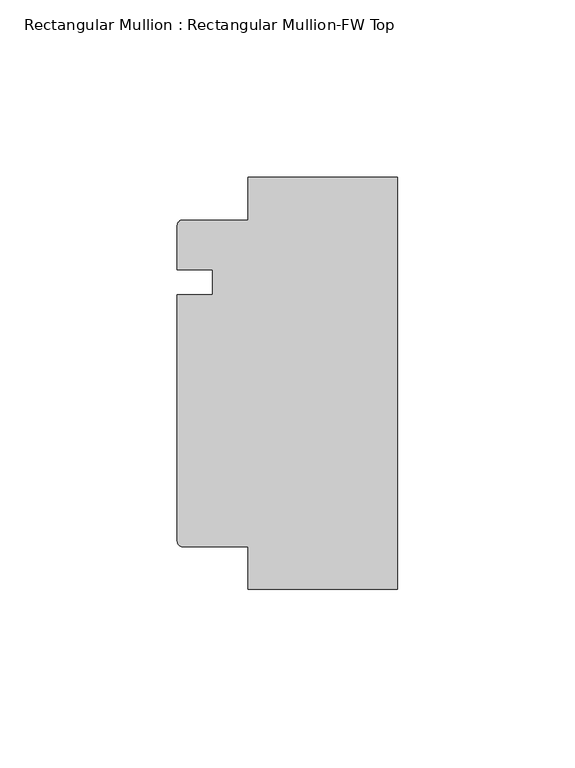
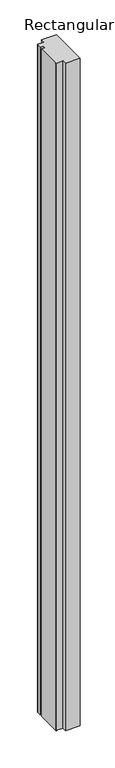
"""IFC4 building model written with IfcOpenShell, lengths in millimetres: member geometry, Rectangular Mullion : Rectangular Mullion-FW Top."""

from ifc_helpers import new_model, si_unit, point, frame, frame_2d, origin, place, context, project, spatial, polyline, circle_curve, trimmed, segment, composite_curve, outline, extrude, source, transform, mapped, element, save


def rectangular_mullion_rectangular_mullion_fw_top_1fdbd171(model_context):
    return source(origin(), model_context, "Body", "SweptSolid", [
        extrude(outline(composite_curve([segment(trimmed(circle_curve(frame_2d((-60.5201031, -90.5201031)), 1.4798969), [point((-60.5201031, -92.0))], [point((-62.0, -90.5201031))], False, "CARTESIAN"), True, "CONTINUOUS"), segment(polyline([(-62.0, -90.5201031), (-62.0, -21.0), (-52.0, -21.0), (-52.0, -14.0), (-62.0, -14.0), (-62.0, -1.4798969)]), True, "CONTINUOUS"), segment(trimmed(circle_curve(frame_2d((-60.5201031, -1.4798969)), 1.4798969), [point((-62.0, -1.4798969))], [point((-60.5201031, 0.0))], False, "CARTESIAN"), True, "CONTINUOUS"), segment(polyline([(-60.5201031, 0.0), (-42.0, 0.0), (-42.0, 12.0), (0.0, 12.0), (0.0, -104.0), (-42.0, -104.0), (-42.0, -92.0), (-60.5201031, -92.0)]), True, "CONTINUOUS")], self_intersect=False)), frame((0.0, 0.0, -2000.0), z_axis=(0.0, 0.0, 1.0), x_axis=(1.0, 0.0, 0.0)), (0.0, 0.0, 1.0), 2000.0),
    ])


if __name__ == "__main__":
    model = new_model("IFC4")
    model_context = context("Model", 3, world=origin())
    ifc_project = project(units=[si_unit("LENGTHUNIT", "METRE", prefix="MILLI")], contexts=[model_context])
    site = spatial("IfcSite", under=ifc_project)
    building = spatial("IfcBuilding", under=site)
    placement = place(None, origin())
    rectangular_mullion_rectangular_mullion_fw_top_shape = rectangular_mullion_rectangular_mullion_fw_top_1fdbd171(model_context)
    element("IfcMember", 1, ObjectType="Rectangular Mullion : Rectangular Mullion-FW Top", at=placement, inside=building, context=model_context, shape_type="MappedRepresentation", body=[
        mapped(rectangular_mullion_rectangular_mullion_fw_top_shape, transform((0.0, 0.0, 0.0), x_axis=(1.0, 0.0, 0.0), y_axis=(0.0, 1.0, 0.0), z_axis=(0.0, 0.0, 1.0))),
    ])
    save(model, "model.ifc")
